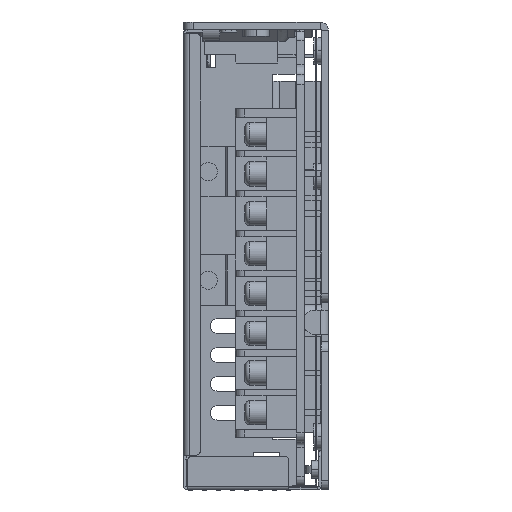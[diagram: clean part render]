
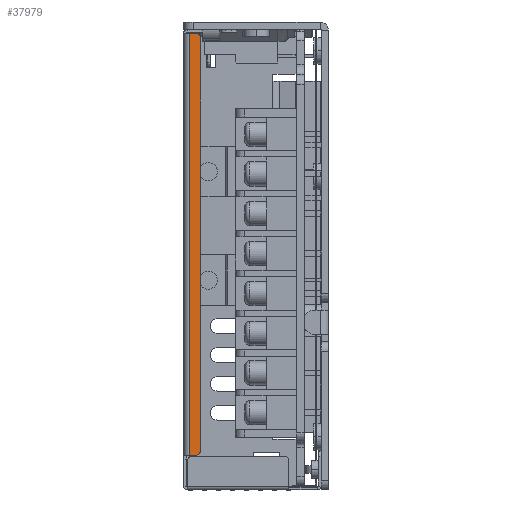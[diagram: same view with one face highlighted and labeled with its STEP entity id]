
A CAD part, left-side view. The second image highlights one B-rep face of the part: STEP entity #37979.
In plain terms, the highlighted planar face has unit normal (-1, 0, 0).
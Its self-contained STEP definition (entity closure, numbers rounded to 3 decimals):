
#17735=DIRECTION('',(0.,0.,-1.));
#17736=VECTOR('',#17735,87.5);
#17737=CARTESIAN_POINT('',(-67.5,-1.2,46.95));
#17738=LINE('',#17737,#17736);
#17743=CARTESIAN_POINT('',(-67.5,-2.5,45.95));
#17744=DIRECTION('',(1.,0.,0.));
#17745=DIRECTION('',(0.,0.,1.));
#17746=AXIS2_PLACEMENT_3D('',#17743,#17744,#17745);
#17748=DIRECTION('',(0.,0.,-1.));
#17749=VECTOR('',#17748,85.5);
#17750=CARTESIAN_POINT('',(-67.5,-3.5,45.95));
#17751=LINE('',#17750,#17749);
#17752=CARTESIAN_POINT('',(-67.5,-2.5,-39.55));
#17753=DIRECTION('',(1.,0.,0.));
#17754=DIRECTION('',(0.,-1.,0.));
#17755=AXIS2_PLACEMENT_3D('',#17752,#17753,#17754);
#17757=DIRECTION('',(0.,1.,0.));
#17758=VECTOR('',#17757,1.3);
#17759=CARTESIAN_POINT('',(-67.5,-2.5,-40.55));
#17760=LINE('',#17759,#17758);
#17761=DIRECTION('',(0.,-1.,0.));
#17762=VECTOR('',#17761,1.3);
#17763=CARTESIAN_POINT('',(-67.5,-1.2,46.95));
#17764=LINE('',#17763,#17762);
#33522=CARTESIAN_POINT('',(-67.5,-1.2,46.95));
#33523=CARTESIAN_POINT('',(-67.5,-1.2,-40.55));
#33524=VERTEX_POINT('',#33522);
#33525=VERTEX_POINT('',#33523);
#33528=CARTESIAN_POINT('',(-67.5,-2.5,46.95));
#33529=CARTESIAN_POINT('',(-67.5,-3.5,45.95));
#33530=VERTEX_POINT('',#33528);
#33531=VERTEX_POINT('',#33529);
#33532=CARTESIAN_POINT('',(-67.5,-3.5,-39.55));
#33533=VERTEX_POINT('',#33532);
#33534=CARTESIAN_POINT('',(-67.5,-2.5,-40.55));
#33535=VERTEX_POINT('',#33534);
#37961=CARTESIAN_POINT('',(-67.5,0.,-46.95));
#37962=DIRECTION('',(-1.,0.,0.));
#37963=DIRECTION('',(0.,0.,-1.));
#37964=AXIS2_PLACEMENT_3D('',#37961,#37962,#37963);
#37965=PLANE('',#37964);
#37967=ORIENTED_EDGE('',*,*,#37966,.T.);
#37969=ORIENTED_EDGE('',*,*,#37968,.T.);
#37971=ORIENTED_EDGE('',*,*,#37970,.T.);
#37973=ORIENTED_EDGE('',*,*,#37972,.T.);
#37974=ORIENTED_EDGE('',*,*,#37948,.F.);
#37976=ORIENTED_EDGE('',*,*,#37975,.T.);
#37977=EDGE_LOOP('',(#37967,#37969,#37971,#37973,#37974,#37976));
#37978=FACE_OUTER_BOUND('',#37977,.F.);
#37979=ADVANCED_FACE('',(#37978),#37965,.T.);
#17747=CIRCLE('',#17746,1.);
#17756=CIRCLE('',#17755,1.);
#37948=EDGE_CURVE('',#33524,#33525,#17738,.T.);
#37966=EDGE_CURVE('',#33530,#33531,#17747,.T.);
#37968=EDGE_CURVE('',#33531,#33533,#17751,.T.);
#37970=EDGE_CURVE('',#33533,#33535,#17756,.T.);
#37972=EDGE_CURVE('',#33535,#33525,#17760,.T.);
#37975=EDGE_CURVE('',#33524,#33530,#17764,.T.);
